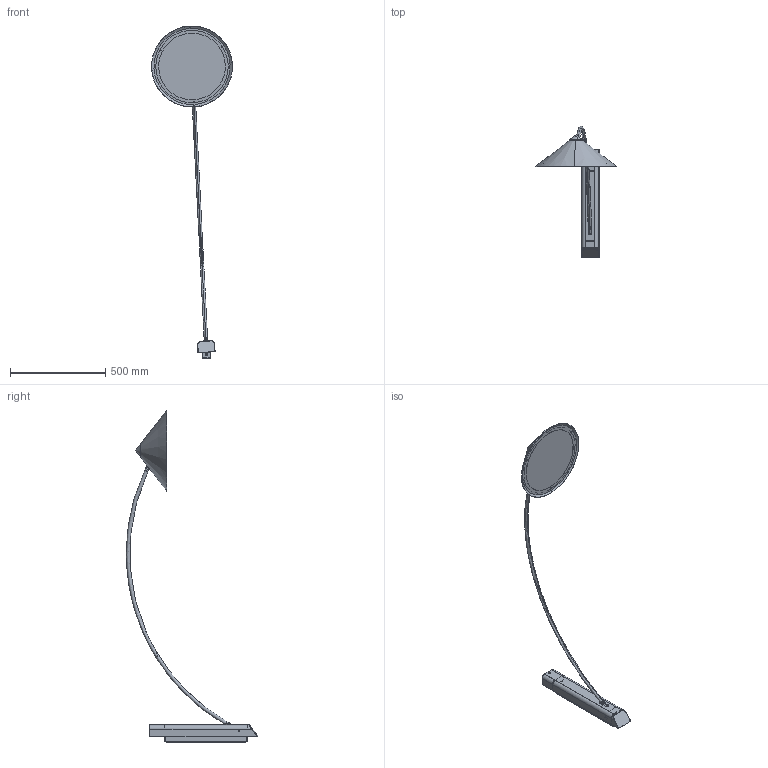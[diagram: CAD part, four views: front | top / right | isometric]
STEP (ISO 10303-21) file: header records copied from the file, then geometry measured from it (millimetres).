
FILE_DESCRIPTION (( 'STEP AP203' ), '1' );
FILE_NAME ('FLAYER W5 DISEGNO D''INSIEME.STEP', '2021-05-17T06:48:31', ( '' ), ( '' ), 'SwSTEP 2.0', 'SolidWorks 2021', '' );
FILE_SCHEMA (( 'CONFIG_CONTROL_DESIGN' ));
Length unit declared in the file: millimetre
Products named in the file (16): FLANGIA+STAFFE; ANELLO SCHERMO; STAFFA INTERNA; STAFFA DIFFUSORE; SCOCCA; FLANGIA FLAYER W5; STAFFA PARETE; SCHERMO; FLAYER W5 DISEGNO D''INSIEME; RACCORDO; DISSIPATORE AL ø290X4; STELO; STAFFA MOVIMENTI; DIFFUSORE_REV AF50; TAPPO DIFFUSORE ø60X27; STAFFA PER FLANGIA
Assembly tree (19 placements, depth 3):
  FLAYER W5 DISEGNO D''INSIEME
    STAFFA PARETE
    SCOCCA
    FLANGIA+STAFFE
      FLANGIA FLAYER W5
      STAFFA PER FLANGIA  x2
    STAFFA MOVIMENTI
    RACCORDO  x2
    STELO
    STAFFA INTERNA
    DISSIPATORE AL ø290X4
    STAFFA DIFFUSORE  x3
    SCHERMO
    ANELLO SCHERMO
    DIFFUSORE_REV AF50
    TAPPO DIFFUSORE ø60X27
Bounding box: 425.45 x 689.69 x 1743.77 mm (x, y, z)
Volume: 1583095.1 mm3; surface area: 1435421.6 mm2
Topology: 18 solids, 18 shells, 681 faces, 1665 edges, 1016 vertices
Faces by surface type: cylinder 292, plane 289, cone 74, bspline 18, torus 8
Entity records: 21420 total; most frequent: CARTESIAN_POINT 6211, DIRECTION 2903, ORIENTED_EDGE 2698, EDGE_CURVE 1349, AXIS2_PLACEMENT_3D 1073, VERTEX_POINT 816, LINE 757, VECTOR 757
